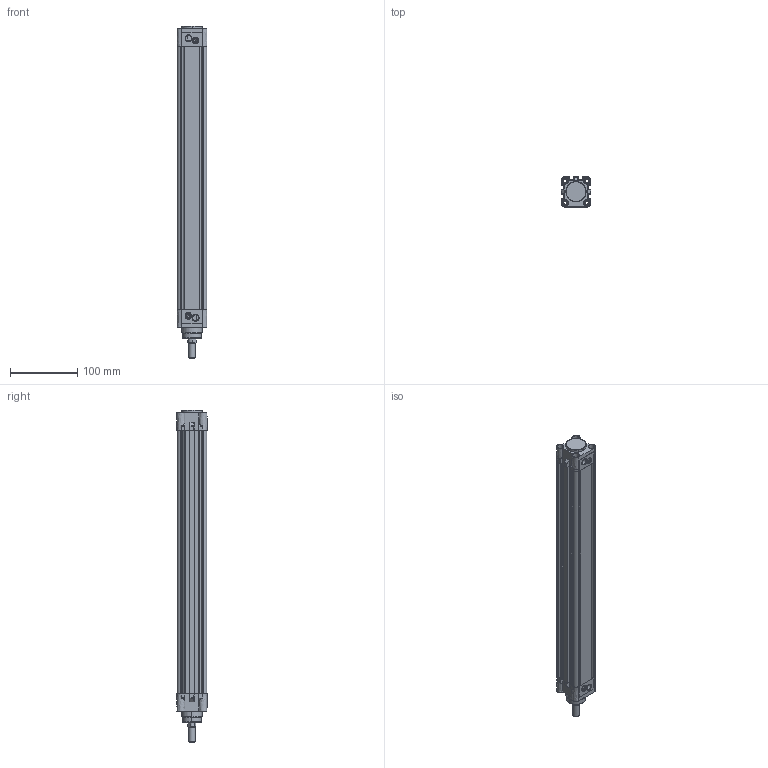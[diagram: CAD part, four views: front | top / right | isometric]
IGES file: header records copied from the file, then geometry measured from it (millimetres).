
Start section: SolidWorks IGES file using analytic representation for surfaces
Global section: file name: D:\ARICA 3D 禽Z軲LER\3D IGES\KDNC\KDNC32\KDNC32X350CYLINDER.IGS,1; native system: 5HSolidWorks 2013; preprocessor: SolidWorks 2013; author: user; date: 150303.140633; units: millimetre
Bounding box: 44.45 x 44.65 x 493.5 mm (x, y, z)
Surface area: 219799.7 mm2 (no closed solid volume)
Topology: 0 solids, 0 shells, 721 faces, 9861 edges, 9828 vertices
Faces by surface type: revolution 371, bspline 350
